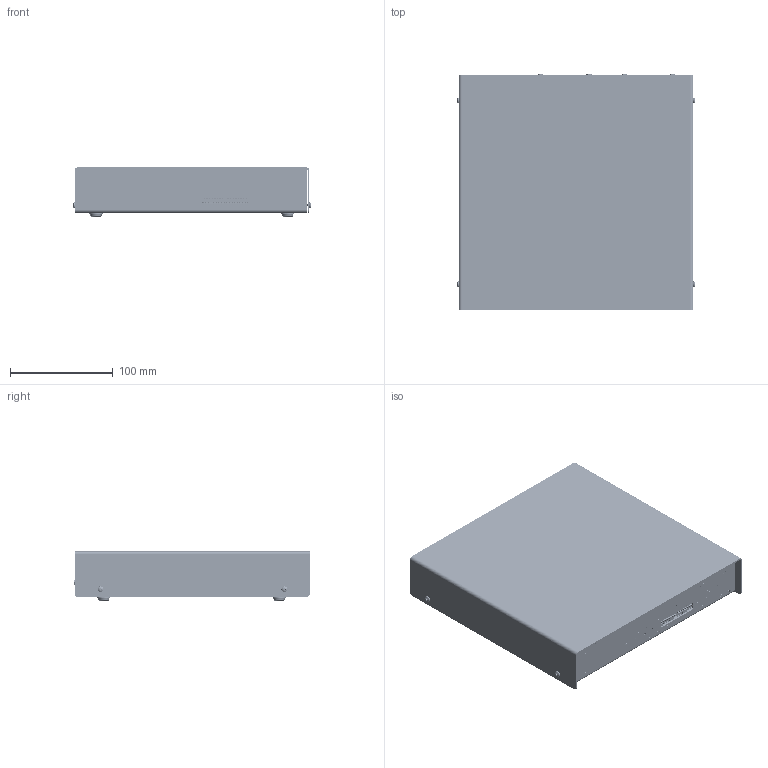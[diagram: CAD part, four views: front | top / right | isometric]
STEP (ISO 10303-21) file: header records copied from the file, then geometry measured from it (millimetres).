
FILE_DESCRIPTION(/* description */ (''),/* implementation_level */ '2;1');
FILE_NAME(/* name */ 'C:/Users/brook/OneDrive/Desktop/Mini USD-ME.step',/* time_stamp */ '2022-05-27T11:47:09-04:00',/* author */ (''),/* organization */ (''),/* preprocessor_version */ 'ST-DEVELOPER v19',/* originating_system */ 'Autodesk Translation Framework v11.7.0.108',/* authorisation */ '');
FILE_SCHEMA (('AUTOMOTIVE_DESIGN { 1 0 10303 214 3 1 1 }'));
Products named in the file (21): Master Assembly Mini; Base Small; Component1; Bracket; 708004; 713008; 93090A210_Press-Fit Threaded Standoffs; 713025; K22X(HT)-B25S-N_rA3(rA2); 713025 (1); K22X(HT)-B25S-N_rA3(rA2) (1); Jack Screw for K42X-B25S-S-A4NJ-rA3; 90730A003_18-8 Stainless Steel Narrow Hex Nut; Power Supply; Main PCB; PCB Main; PCB Extension; Cover; 91772A106_Passivated 18-8 Stainless Steel Pan Head Phillips Screw; Piano Switch BPA08B; SJxx12
Assembly tree (61 placements, depth 3):
  Master Assembly Mini
    Base Small
      Component1
    Bracket  x2
    708004
    713008
    93090A210_Press-Fit Threaded Standoffs  x13
    713025
      K22X(HT)-B25S-N_rA3(rA2)
    713025 (1)
      K22X(HT)-B25S-N_rA3(rA2) (1)
    Jack Screw for K42X-B25S-S-A4NJ-rA3  x4
    91772A106_Passivated 18-8 Stainless Steel Pan Head Phillips Screw  x8
    90730A003_18-8 Stainless Steel Narrow Hex Nut  x4
    Power Supply
      91772A106_Passivated 18-8 Stainless Steel Pan Head Phillips Screw  x4
    PCB Extension  x2
    Main PCB
      91772A106_Passivated 18-8 Stainless Steel Pan Head Phillips Screw  x6
      PCB Main
    Cover
    Piano Switch BPA08B  x2
    SJxx12  x4
Bounding box: 232.09 x 229.37 x 47.98 mm (x, y, z)
Volume: 274331.3 mm3; surface area: 399056.9 mm2
Topology: 106 solids, 110 shells, 14787 faces, 40138 edges, 26373 vertices
Faces by surface type: plane 8062, bspline 4189, cylinder 1991, cone 294, torus 180, sphere 71
Full cylindrical faces by diameter (mm): 0.885 x1, 0.925 x1, 1.15 x50, 1.4 x4, 1.575 x68, 1.595 x4, 2.02 x253, 2.184 x12, 2.261 x8, 2.271 x8, 2.35 x4, 2.6 x3, 2.845 x256, 3 x3, 3.048 x4, 3.1 x6, 3.175 x4, 3.556 x38, 4.1 x4, 4.191 x13, 4.216 x10, 4.597 x34, 5.563 x18, 11 x1, 12.7 x6, 15.2 x1, 16 x1
Entity records: 405134 total; most frequent: CARTESIAN_POINT 145325, ORIENTED_EDGE 59692, DIRECTION 38970, EDGE_CURVE 29846, LINE 19816, VECTOR 19816, VERTEX_POINT 19579, EDGE_LOOP 12007
